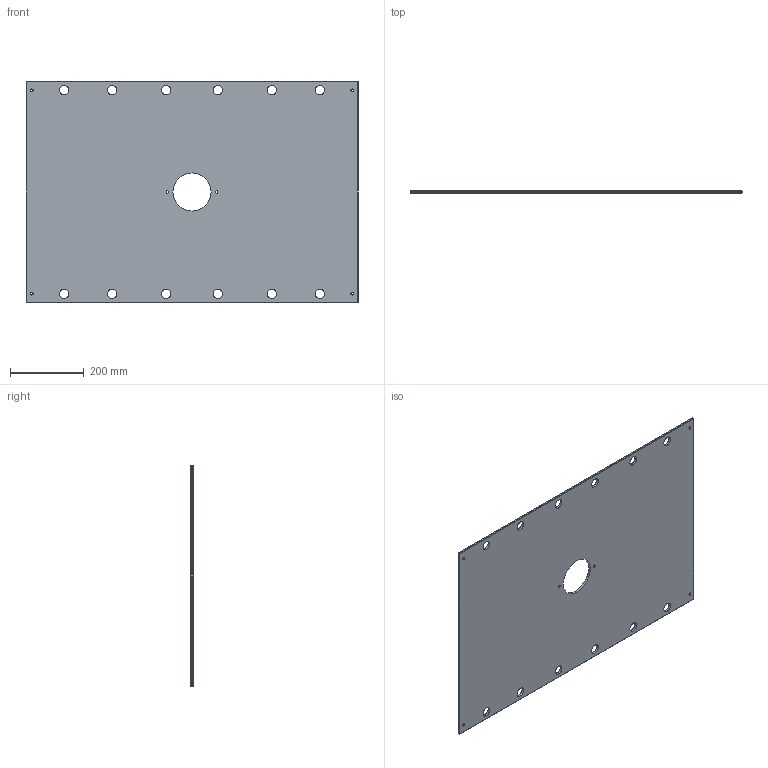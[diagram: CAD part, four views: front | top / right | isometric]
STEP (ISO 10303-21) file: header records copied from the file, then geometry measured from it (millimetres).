
FILE_DESCRIPTION (( 'STEP AP214' ), '1' );
FILE_NAME ('ME-0619-CH-2435.STEP', '2020-02-12T06:45:19', ( '' ), ( '' ), 'SwSTEP 2.0', 'SolidWorks 2018', '' );
FILE_SCHEMA (( 'AUTOMOTIVE_DESIGN' ));
Length unit declared in the file: inch
Products named in the file (1): ME-0619-CH-2435
Bounding box: 898.52 x 6.35 x 600.08 mm (x, y, z)
Volume: 3324530.7 mm3; surface area: 1072404.1 mm2
Topology: 1 solids, 1 shells, 76 faces, 186 edges, 112 vertices
Faces by surface type: cylinder 38, plane 26, cone 12
Entity records: 2346 total; most frequent: DIRECTION 428, CARTESIAN_POINT 375, ORIENTED_EDGE 372, EDGE_CURVE 186, AXIS2_PLACEMENT_3D 165, EDGE_LOOP 114, VERTEX_POINT 112, VECTOR 98
